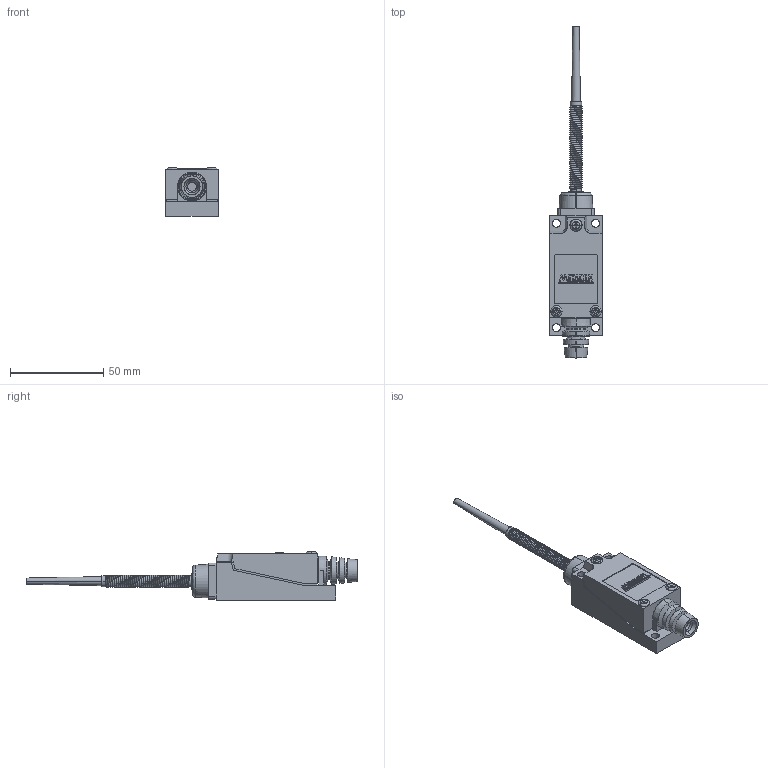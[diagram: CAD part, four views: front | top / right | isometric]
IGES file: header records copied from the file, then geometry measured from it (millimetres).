
Start section: SolidWorks IGES file using analytic representation for surfaces
Global section: file name: D:\X - Arquivos\PROEX\Empresas\P11 - METALTEX\01 - Produtos\IGES\4ª remessa\6ª etapa\FM8166.IGS; native system: SolidWorks 2012; preprocessor: SolidWorks 2012; author: Usuario; date: 180620.132541; units: millimetre
Bounding box: 28 x 178.05 x 25.9 mm (x, y, z)
Surface area: 14442.4 mm2 (no closed solid volume)
Topology: 0 solids, 0 shells, 289 faces, 3025 edges, 3025 vertices
Faces by surface type: bspline 208, revolution 81
